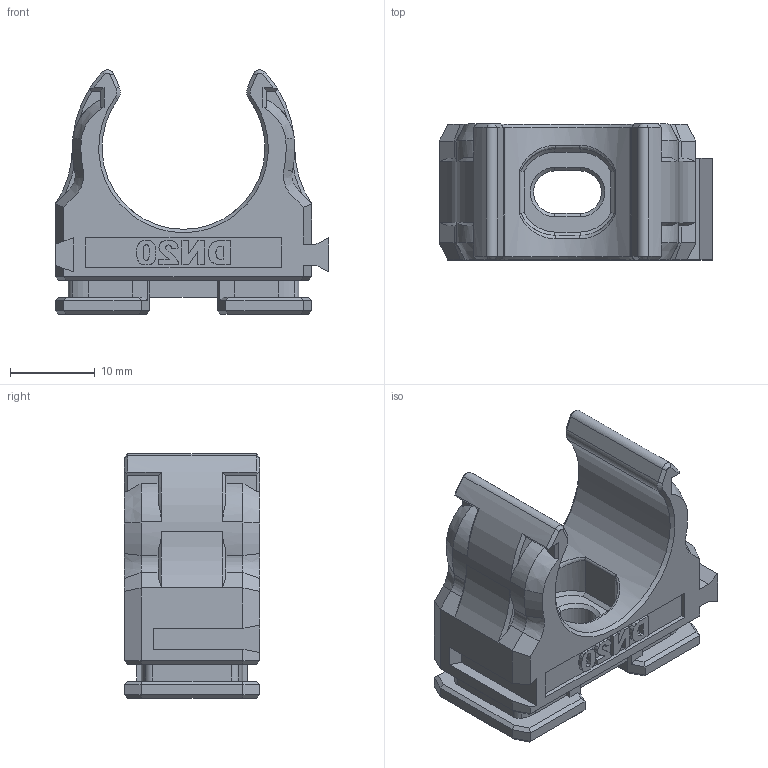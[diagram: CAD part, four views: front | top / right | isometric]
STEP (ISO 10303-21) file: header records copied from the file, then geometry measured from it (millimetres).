
FILE_DESCRIPTION(/* description */ ('STEP AP242 Edition 2','CAx-IF Rec.Pracs.---Representation and Presentation of Product Manufacturing Information (PMI)---4.0---2014-10-13','CAx-IF Rec.Pracs.---3D Tessellated Geometry---0.4---2014-09-14','2;1','CAx-IF Rec.Pracs.---User Defined Attributes---1.5---2016-08-15'),/* implementation_level */ '2;1');
FILE_NAME(/* name */ 'Final Build - Clip fixture (1)',/* time_stamp */ '2026-08-31T23:26:07Z',/* author */ (''),/* organization */ (''),/* preprocessor_version */ 'ST-DEVELOPER v20',/* originating_system */ 'ONSHAPE BY PTC INC, 1.220',/* authorisation */ ' ');
FILE_SCHEMA (('AP242_MANAGED_MODEL_BASED_3D_ENGINEERING_MIM_LF { 1 0 10303 442 3 1 4 }'));
Length unit declared in the file: metre
Products named in the file (1): Clip fixture
Bounding box: 32.2 x 16 x 28.8 mm (x, y, z)
Volume: 6011.3 mm3; surface area: 4085.1 mm2
Topology: 1 solids, 1 shells, 408 faces, 1066 edges, 677 vertices
Faces by surface type: plane 216, bspline 100, cylinder 45, cone 45, torus 2
Full cylindrical faces by diameter (mm): 4.5 x1, 5.5 x1
Entity records: 13416 total; most frequent: CARTESIAN_POINT 4067, ORIENTED_EDGE 2126, DIRECTION 1604, EDGE_CURVE 1063, VERTEX_POINT 677, LINE 648, VECTOR 648, AXIS2_PLACEMENT_3D 478
